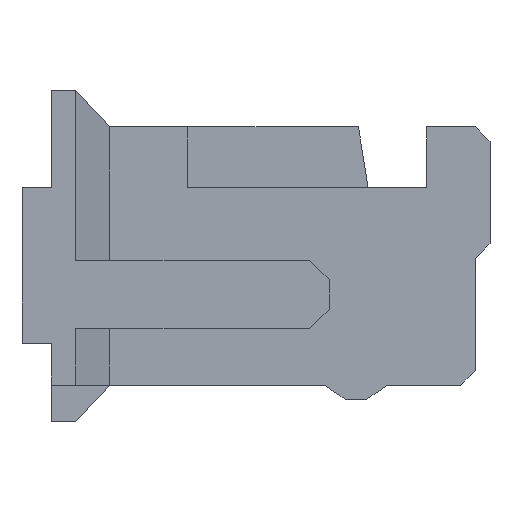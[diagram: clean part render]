
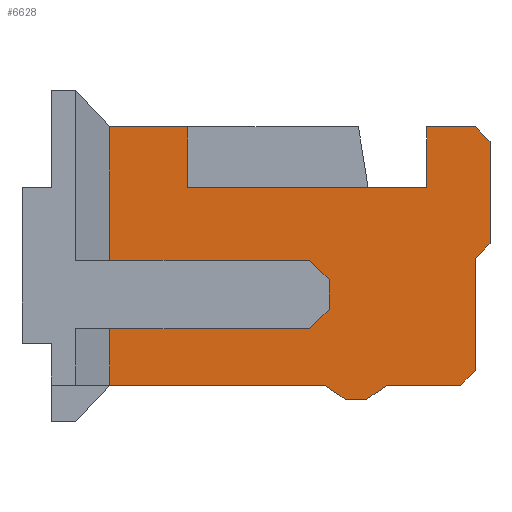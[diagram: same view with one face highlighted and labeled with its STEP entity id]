
A CAD part, left-side view. The second image highlights one B-rep face of the part: STEP entity #6628.
In plain terms, the highlighted planar face has unit normal (-1, 0, 0).
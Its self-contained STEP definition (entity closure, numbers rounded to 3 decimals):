
#402=DIRECTION('',(0.,0.,1.));
#403=VECTOR('',#402,1.15);
#404=CARTESIAN_POINT('',(-3.15,0.15,-1.175));
#405=LINE('',#404,#403);
#530=DIRECTION('',(0.,0.707,-0.707));
#531=VECTOR('',#530,0.212);
#532=CARTESIAN_POINT('',(-3.15,0.,0.125));
#533=LINE('',#532,#531);
#1606=DIRECTION('',(0.,-1.,0.));
#1607=VECTOR('',#1606,2.2);
#1608=CARTESIAN_POINT('',(-3.15,3.9,-1.325));
#1609=LINE('',#1608,#1607);
#1622=DIRECTION('',(0.,-1.,0.));
#1623=VECTOR('',#1622,0.75);
#1624=CARTESIAN_POINT('',(-3.15,1.05,-1.325));
#1625=LINE('',#1624,#1623);
#1814=DIRECTION('',(0.,1.,0.));
#1815=VECTOR('',#1814,0.8);
#1816=CARTESIAN_POINT('',(-3.15,3.1,1.325));
#1817=LINE('',#1816,#1815);
#1822=DIRECTION('',(0.,1.,0.));
#1823=VECTOR('',#1822,0.5);
#1824=CARTESIAN_POINT('',(-3.15,0.15,1.325));
#1825=LINE('',#1824,#1823);
#1958=DIRECTION('',(0.,1.,0.));
#1959=VECTOR('',#1958,2.45);
#1960=CARTESIAN_POINT('',(-3.15,0.65,0.7));
#1961=LINE('',#1960,#1959);
#2254=DIRECTION('',(0.,-0.707,0.707));
#2255=VECTOR('',#2254,0.212);
#2256=CARTESIAN_POINT('',(-3.15,0.3,-1.325));
#2257=LINE('',#2256,#2255);
#2258=DIRECTION('',(0.,-0.832,0.555));
#2259=VECTOR('',#2258,0.27);
#2260=CARTESIAN_POINT('',(-3.15,1.275,-1.475));
#2261=LINE('',#2260,#2259);
#2262=DIRECTION('',(0.,-1.,0.));
#2263=VECTOR('',#2262,0.2);
#2264=CARTESIAN_POINT('',(-3.15,1.475,-1.475));
#2265=LINE('',#2264,#2263);
#2266=DIRECTION('',(0.,-0.832,-0.555));
#2267=VECTOR('',#2266,0.27);
#2268=CARTESIAN_POINT('',(-3.15,1.7,-1.325));
#2269=LINE('',#2268,#2267);
#2270=DIRECTION('',(0.,0.,-1.));
#2271=VECTOR('',#2270,0.58);
#2272=CARTESIAN_POINT('',(-3.15,3.9,-0.745));
#2273=LINE('',#2272,#2271);
#2274=DIRECTION('',(0.,-1.,0.));
#2275=VECTOR('',#2274,2.05);
#2276=CARTESIAN_POINT('',(-3.15,3.9,-0.745));
#2277=LINE('',#2276,#2275);
#2278=DIRECTION('',(0.,0.,1.));
#2279=VECTOR('',#2278,0.3);
#2280=CARTESIAN_POINT('',(-3.15,1.65,-0.545));
#2281=LINE('',#2280,#2279);
#2282=DIRECTION('',(0.,1.,0.));
#2283=VECTOR('',#2282,2.05);
#2284=CARTESIAN_POINT('',(-3.15,1.85,-0.045));
#2285=LINE('',#2284,#2283);
#2286=DIRECTION('',(0.,0.,-1.));
#2287=VECTOR('',#2286,1.37);
#2288=CARTESIAN_POINT('',(-3.15,3.9,1.325));
#2289=LINE('',#2288,#2287);
#2290=DIRECTION('',(0.,0.,-1.));
#2291=VECTOR('',#2290,0.625);
#2292=CARTESIAN_POINT('',(-3.15,3.1,1.325));
#2293=LINE('',#2292,#2291);
#2294=DIRECTION('',(0.,0.,-1.));
#2295=VECTOR('',#2294,0.625);
#2296=CARTESIAN_POINT('',(-3.15,0.65,1.325));
#2297=LINE('',#2296,#2295);
#2298=DIRECTION('',(0.,0.707,0.707));
#2299=VECTOR('',#2298,0.212);
#2300=CARTESIAN_POINT('',(-3.15,0.,1.175));
#2301=LINE('',#2300,#2299);
#2338=DIRECTION('',(0.,0.707,-0.707));
#2339=VECTOR('',#2338,0.283);
#2340=CARTESIAN_POINT('',(-3.15,1.65,-0.545));
#2341=LINE('',#2340,#2339);
#2350=DIRECTION('',(0.,-0.707,-0.707));
#2351=VECTOR('',#2350,0.283);
#2352=CARTESIAN_POINT('',(-3.15,1.85,-0.045));
#2353=LINE('',#2352,#2351);
#2382=DIRECTION('',(0.,0.,-1.));
#2383=VECTOR('',#2382,1.05);
#2384=CARTESIAN_POINT('',(-3.15,0.,1.175));
#2385=LINE('',#2384,#2383);
#2698=CARTESIAN_POINT('',(-3.15,0.,0.125));
#2699=CARTESIAN_POINT('',(-3.15,0.15,-0.025));
#2700=VERTEX_POINT('',#2698);
#2701=VERTEX_POINT('',#2699);
#2703=CARTESIAN_POINT('',(-3.15,1.85,-0.745));
#2705=VERTEX_POINT('',#2703);
#2708=CARTESIAN_POINT('',(-3.15,1.65,-0.545));
#2709=VERTEX_POINT('',#2708);
#2711=CARTESIAN_POINT('',(-3.15,1.65,-0.245));
#2713=VERTEX_POINT('',#2711);
#2716=CARTESIAN_POINT('',(-3.15,1.85,-0.045));
#2717=VERTEX_POINT('',#2716);
#2722=CARTESIAN_POINT('',(-3.15,3.9,-0.745));
#2723=VERTEX_POINT('',#2722);
#2724=CARTESIAN_POINT('',(-3.15,3.9,-0.045));
#2725=VERTEX_POINT('',#2724);
#2738=CARTESIAN_POINT('',(-3.15,3.9,1.325));
#2740=VERTEX_POINT('',#2738);
#2750=CARTESIAN_POINT('',(-3.15,0.65,1.325));
#2751=CARTESIAN_POINT('',(-3.15,0.65,0.7));
#2752=VERTEX_POINT('',#2750);
#2753=VERTEX_POINT('',#2751);
#2762=CARTESIAN_POINT('',(-3.15,3.1,1.325));
#2764=VERTEX_POINT('',#2762);
#2768=CARTESIAN_POINT('',(-3.15,3.1,0.7));
#2769=VERTEX_POINT('',#2768);
#2804=CARTESIAN_POINT('',(-3.15,3.9,-1.325));
#2805=VERTEX_POINT('',#2804);
#3014=CARTESIAN_POINT('',(-3.15,1.475,-1.475));
#3015=CARTESIAN_POINT('',(-3.15,1.275,-1.475));
#3016=VERTEX_POINT('',#3014);
#3017=VERTEX_POINT('',#3015);
#3026=CARTESIAN_POINT('',(-3.15,1.7,-1.325));
#3027=VERTEX_POINT('',#3026);
#3028=CARTESIAN_POINT('',(-3.15,1.05,-1.325));
#3029=VERTEX_POINT('',#3028);
#3050=CARTESIAN_POINT('',(-3.15,0.3,-1.325));
#3051=VERTEX_POINT('',#3050);
#3052=CARTESIAN_POINT('',(-3.15,0.15,-1.175));
#3053=VERTEX_POINT('',#3052);
#3054=CARTESIAN_POINT('',(-3.15,0.,1.175));
#3055=CARTESIAN_POINT('',(-3.15,0.15,1.325));
#3056=VERTEX_POINT('',#3054);
#3057=VERTEX_POINT('',#3055);
#6587=CARTESIAN_POINT('',(-3.15,0.,0.));
#6588=DIRECTION('',(1.,0.,0.));
#6589=DIRECTION('',(0.,0.,-1.));
#6590=AXIS2_PLACEMENT_3D('',#6587,#6588,#6589);
#6591=PLANE('',#6590);
#6592=ORIENTED_EDGE('',*,*,#3908,.F.);
#6593=ORIENTED_EDGE('',*,*,#5680,.F.);
#6595=ORIENTED_EDGE('',*,*,#6594,.F.);
#6597=ORIENTED_EDGE('',*,*,#6596,.F.);
#6599=ORIENTED_EDGE('',*,*,#6598,.F.);
#6600=ORIENTED_EDGE('',*,*,#5672,.F.);
#6602=ORIENTED_EDGE('',*,*,#6601,.F.);
#6604=ORIENTED_EDGE('',*,*,#6603,.T.);
#6606=ORIENTED_EDGE('',*,*,#6605,.F.);
#6608=ORIENTED_EDGE('',*,*,#6607,.T.);
#6610=ORIENTED_EDGE('',*,*,#6609,.F.);
#6612=ORIENTED_EDGE('',*,*,#6611,.T.);
#6614=ORIENTED_EDGE('',*,*,#6613,.F.);
#6615=ORIENTED_EDGE('',*,*,#5957,.F.);
#6616=ORIENTED_EDGE('',*,*,#6578,.T.);
#6617=ORIENTED_EDGE('',*,*,#6061,.F.);
#6618=ORIENTED_EDGE('',*,*,#5065,.F.);
#6619=ORIENTED_EDGE('',*,*,#5969,.F.);
#6621=ORIENTED_EDGE('',*,*,#6620,.F.);
#6623=ORIENTED_EDGE('',*,*,#6622,.T.);
#6624=ORIENTED_EDGE('',*,*,#3977,.T.);
#6625=ORIENTED_EDGE('',*,*,#3860,.F.);
#6626=EDGE_LOOP('',(#6592,#6593,#6595,#6597,#6599,#6600,#6602,#6604,#6606,#6608,
#6610,#6612,#6614,#6615,#6616,#6617,#6618,#6619,#6621,#6623,#6624,#6625));
#6627=FACE_OUTER_BOUND('',#6626,.F.);
#3860=EDGE_CURVE('',#3053,#2701,#405,.T.);
#3908=EDGE_CURVE('',#3051,#3053,#2257,.T.);
#3977=EDGE_CURVE('',#2700,#2701,#533,.T.);
#5065=EDGE_CURVE('',#2752,#2753,#2297,.T.);
#5672=EDGE_CURVE('',#2805,#3027,#1609,.T.);
#5680=EDGE_CURVE('',#3029,#3051,#1625,.T.);
#5957=EDGE_CURVE('',#2764,#2740,#1817,.T.);
#5969=EDGE_CURVE('',#3057,#2752,#1825,.T.);
#6061=EDGE_CURVE('',#2753,#2769,#1961,.T.);
#6578=EDGE_CURVE('',#2764,#2769,#2293,.T.);
#6594=EDGE_CURVE('',#3017,#3029,#2261,.T.);
#6596=EDGE_CURVE('',#3016,#3017,#2265,.T.);
#6598=EDGE_CURVE('',#3027,#3016,#2269,.T.);
#6601=EDGE_CURVE('',#2723,#2805,#2273,.T.);
#6603=EDGE_CURVE('',#2723,#2705,#2277,.T.);
#6605=EDGE_CURVE('',#2709,#2705,#2341,.T.);
#6607=EDGE_CURVE('',#2709,#2713,#2281,.T.);
#6609=EDGE_CURVE('',#2717,#2713,#2353,.T.);
#6611=EDGE_CURVE('',#2717,#2725,#2285,.T.);
#6613=EDGE_CURVE('',#2740,#2725,#2289,.T.);
#6620=EDGE_CURVE('',#3056,#3057,#2301,.T.);
#6622=EDGE_CURVE('',#3056,#2700,#2385,.T.);
#6628=ADVANCED_FACE('',(#6627),#6591,.F.);
